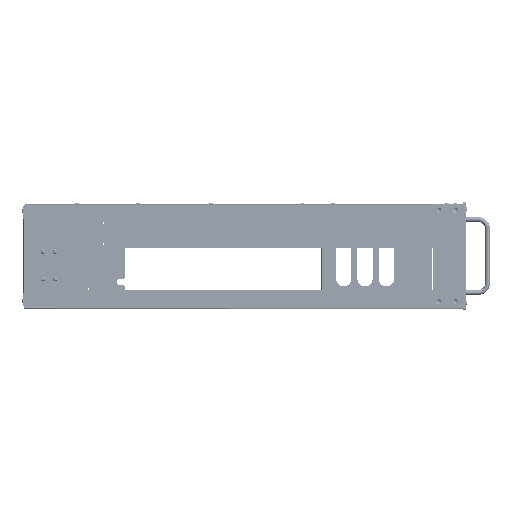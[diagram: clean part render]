
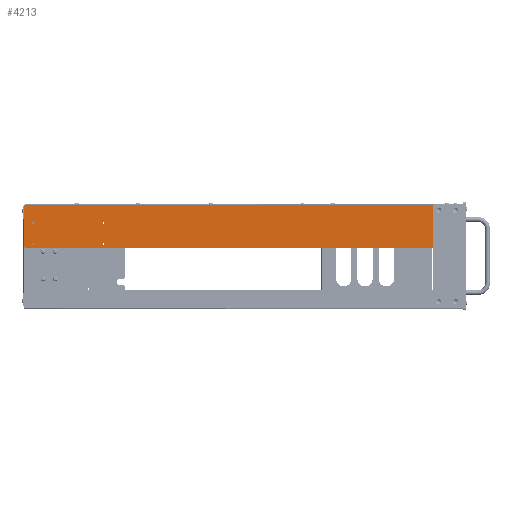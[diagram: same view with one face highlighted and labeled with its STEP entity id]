
A CAD part, left-side view. The second image highlights one B-rep face of the part: STEP entity #4213.
In plain terms, the highlighted planar face has unit normal (-1, 0, 0).
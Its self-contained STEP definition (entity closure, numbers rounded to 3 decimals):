
#3984=CARTESIAN_POINT('Vertex',(-220.5,360.,-67.)) ;
#3987=CARTESIAN_POINT('Line Origine',(-220.5,360.,-33.75)) ;
#3991=CARTESIAN_POINT('Vertex',(-220.5,360.,-0.5)) ;
#4037=CARTESIAN_POINT('Line Origine',(-220.5,360.,-0.5)) ;
#4041=CARTESIAN_POINT('Vertex',(-220.5,-360.,-0.5)) ;
#4066=CARTESIAN_POINT('Axis2P3D Location',(-220.5,-360.,0.077)) ;
#4071=CARTESIAN_POINT('Axis2P3D Location',(-220.5,357.,-67.)) ;
#4075=CARTESIAN_POINT('Vertex',(-220.5,357.,-70.)) ;
#4078=CARTESIAN_POINT('Line Origine',(-220.5,0.,-70.)) ;
#4082=CARTESIAN_POINT('Vertex',(-220.5,-357.,-70.)) ;
#4085=CARTESIAN_POINT('Axis2P3D Location',(-220.5,-357.,-67.)) ;
#4089=CARTESIAN_POINT('Vertex',(-220.5,-360.,-67.)) ;
#4092=CARTESIAN_POINT('Line Origine',(-220.5,-360.,-33.75)) ;
#4105=CARTESIAN_POINT('Axis2P3D Location',(-220.5,230.,-29.)) ;
#4109=CARTESIAN_POINT('Vertex',(-220.5,230.,-30.6)) ;
#4111=CARTESIAN_POINT('Vertex',(-220.5,230.,-27.4)) ;
#4114=CARTESIAN_POINT('Axis2P3D Location',(-220.5,230.,-29.)) ;
#4123=CARTESIAN_POINT('Axis2P3D Location',(-220.5,345.,-64.)) ;
#4127=CARTESIAN_POINT('Vertex',(-220.5,345.,-65.6)) ;
#4129=CARTESIAN_POINT('Vertex',(-220.5,345.,-62.4)) ;
#4132=CARTESIAN_POINT('Axis2P3D Location',(-220.5,345.,-64.)) ;
#4141=CARTESIAN_POINT('Axis2P3D Location',(-220.5,345.,-29.)) ;
#4145=CARTESIAN_POINT('Vertex',(-220.5,345.,-30.6)) ;
#4147=CARTESIAN_POINT('Vertex',(-220.5,345.,-27.4)) ;
#4150=CARTESIAN_POINT('Axis2P3D Location',(-220.5,345.,-29.)) ;
#4159=CARTESIAN_POINT('Axis2P3D Location',(-220.5,230.,-64.)) ;
#4163=CARTESIAN_POINT('Vertex',(-220.5,230.,-65.6)) ;
#4165=CARTESIAN_POINT('Vertex',(-220.5,230.,-62.4)) ;
#4168=CARTESIAN_POINT('Axis2P3D Location',(-220.5,230.,-64.)) ;
#4177=CARTESIAN_POINT('Axis2P3D Location',(-220.5,-347.5,-8.5)) ;
#4181=CARTESIAN_POINT('Vertex',(-220.5,-347.5,-10.1)) ;
#4183=CARTESIAN_POINT('Vertex',(-220.5,-347.5,-6.9)) ;
#4186=CARTESIAN_POINT('Axis2P3D Location',(-220.5,-347.5,-8.5)) ;
#4195=CARTESIAN_POINT('Axis2P3D Location',(-220.5,-320.,-8.5)) ;
#4199=CARTESIAN_POINT('Vertex',(-220.5,-320.,-10.1)) ;
#4201=CARTESIAN_POINT('Vertex',(-220.5,-320.,-6.9)) ;
#4204=CARTESIAN_POINT('Axis2P3D Location',(-220.5,-320.,-8.5)) ;
#3988=DIRECTION('Vector Direction',(0.,0.,-1.)) ;
#4038=DIRECTION('Vector Direction',(0.,1.,0.)) ;
#4067=DIRECTION('Axis2P3D Direction',(-1.,0.,0.)) ;
#4068=DIRECTION('Axis2P3D XDirection',(0.,0.,1.)) ;
#4072=DIRECTION('Axis2P3D Direction',(-1.,0.,0.)) ;
#4079=DIRECTION('Vector Direction',(0.,-1.,0.)) ;
#4086=DIRECTION('Axis2P3D Direction',(-1.,0.,0.)) ;
#4093=DIRECTION('Vector Direction',(0.,0.,1.)) ;
#4106=DIRECTION('Axis2P3D Direction',(-1.,0.,0.)) ;
#4115=DIRECTION('Axis2P3D Direction',(-1.,0.,0.)) ;
#4124=DIRECTION('Axis2P3D Direction',(-1.,0.,0.)) ;
#4133=DIRECTION('Axis2P3D Direction',(-1.,0.,0.)) ;
#4142=DIRECTION('Axis2P3D Direction',(-1.,0.,0.)) ;
#4151=DIRECTION('Axis2P3D Direction',(-1.,0.,0.)) ;
#4160=DIRECTION('Axis2P3D Direction',(-1.,0.,0.)) ;
#4169=DIRECTION('Axis2P3D Direction',(-1.,0.,0.)) ;
#4178=DIRECTION('Axis2P3D Direction',(-1.,0.,0.)) ;
#4187=DIRECTION('Axis2P3D Direction',(-1.,0.,0.)) ;
#4196=DIRECTION('Axis2P3D Direction',(-1.,0.,0.)) ;
#4205=DIRECTION('Axis2P3D Direction',(-1.,0.,0.)) ;
#4069=AXIS2_PLACEMENT_3D('Plane Axis2P3D',#4066,#4067,#4068) ;
#4073=AXIS2_PLACEMENT_3D('Circle Axis2P3D',#4071,#4072,$) ;
#4087=AXIS2_PLACEMENT_3D('Circle Axis2P3D',#4085,#4086,$) ;
#4107=AXIS2_PLACEMENT_3D('Circle Axis2P3D',#4105,#4106,$) ;
#4116=AXIS2_PLACEMENT_3D('Circle Axis2P3D',#4114,#4115,$) ;
#4125=AXIS2_PLACEMENT_3D('Circle Axis2P3D',#4123,#4124,$) ;
#4134=AXIS2_PLACEMENT_3D('Circle Axis2P3D',#4132,#4133,$) ;
#4143=AXIS2_PLACEMENT_3D('Circle Axis2P3D',#4141,#4142,$) ;
#4152=AXIS2_PLACEMENT_3D('Circle Axis2P3D',#4150,#4151,$) ;
#4161=AXIS2_PLACEMENT_3D('Circle Axis2P3D',#4159,#4160,$) ;
#4170=AXIS2_PLACEMENT_3D('Circle Axis2P3D',#4168,#4169,$) ;
#4179=AXIS2_PLACEMENT_3D('Circle Axis2P3D',#4177,#4178,$) ;
#4188=AXIS2_PLACEMENT_3D('Circle Axis2P3D',#4186,#4187,$) ;
#4197=AXIS2_PLACEMENT_3D('Circle Axis2P3D',#4195,#4196,$) ;
#4206=AXIS2_PLACEMENT_3D('Circle Axis2P3D',#4204,#4205,$) ;
#4098=ORIENTED_EDGE('',*,*,#3993,.T.) ;
#4099=ORIENTED_EDGE('',*,*,#4077,.T.) ;
#4100=ORIENTED_EDGE('',*,*,#4084,.T.) ;
#4101=ORIENTED_EDGE('',*,*,#4091,.T.) ;
#4102=ORIENTED_EDGE('',*,*,#4096,.T.) ;
#4103=ORIENTED_EDGE('',*,*,#4043,.T.) ;
#4120=ORIENTED_EDGE('',*,*,#4113,.F.) ;
#4121=ORIENTED_EDGE('',*,*,#4118,.F.) ;
#4138=ORIENTED_EDGE('',*,*,#4131,.F.) ;
#4139=ORIENTED_EDGE('',*,*,#4136,.F.) ;
#4156=ORIENTED_EDGE('',*,*,#4149,.F.) ;
#4157=ORIENTED_EDGE('',*,*,#4154,.F.) ;
#4174=ORIENTED_EDGE('',*,*,#4167,.F.) ;
#4175=ORIENTED_EDGE('',*,*,#4172,.F.) ;
#4192=ORIENTED_EDGE('',*,*,#4185,.F.) ;
#4193=ORIENTED_EDGE('',*,*,#4190,.F.) ;
#4210=ORIENTED_EDGE('',*,*,#4203,.F.) ;
#4211=ORIENTED_EDGE('',*,*,#4208,.F.) ;
#4122=FACE_BOUND('',#4119,.T.) ;
#4140=FACE_BOUND('',#4137,.T.) ;
#4158=FACE_BOUND('',#4155,.T.) ;
#4176=FACE_BOUND('',#4173,.T.) ;
#4194=FACE_BOUND('',#4191,.T.) ;
#4212=FACE_BOUND('',#4209,.T.) ;
#3989=VECTOR('Line Direction',#3988,1.) ;
#4039=VECTOR('Line Direction',#4038,1.) ;
#4080=VECTOR('Line Direction',#4079,1.) ;
#4094=VECTOR('Line Direction',#4093,1.) ;
#4213=ADVANCED_FACE('28',(#4104,#4122,#4140,#4158,#4176,#4194,#4212),#4070,.T.) ;
#4074=CIRCLE('generated circle',#4073,3.) ;
#4088=CIRCLE('generated circle',#4087,3.) ;
#4108=CIRCLE('generated circle',#4107,1.6) ;
#4117=CIRCLE('generated circle',#4116,1.6) ;
#4126=CIRCLE('generated circle',#4125,1.6) ;
#4135=CIRCLE('generated circle',#4134,1.6) ;
#4144=CIRCLE('generated circle',#4143,1.6) ;
#4153=CIRCLE('generated circle',#4152,1.6) ;
#4162=CIRCLE('generated circle',#4161,1.6) ;
#4171=CIRCLE('generated circle',#4170,1.6) ;
#4180=CIRCLE('generated circle',#4179,1.6) ;
#4189=CIRCLE('generated circle',#4188,1.6) ;
#4198=CIRCLE('generated circle',#4197,1.6) ;
#4207=CIRCLE('generated circle',#4206,1.6) ;
#3993=EDGE_CURVE('',#3992,#3985,#3990,.T.) ;
#4043=EDGE_CURVE('',#4042,#3992,#4040,.T.) ;
#4077=EDGE_CURVE('',#3985,#4076,#4074,.T.) ;
#4084=EDGE_CURVE('',#4076,#4083,#4081,.T.) ;
#4091=EDGE_CURVE('',#4083,#4090,#4088,.T.) ;
#4096=EDGE_CURVE('',#4090,#4042,#4095,.T.) ;
#4113=EDGE_CURVE('',#4110,#4112,#4108,.T.) ;
#4118=EDGE_CURVE('',#4112,#4110,#4117,.T.) ;
#4131=EDGE_CURVE('',#4128,#4130,#4126,.T.) ;
#4136=EDGE_CURVE('',#4130,#4128,#4135,.T.) ;
#4149=EDGE_CURVE('',#4146,#4148,#4144,.T.) ;
#4154=EDGE_CURVE('',#4148,#4146,#4153,.T.) ;
#4167=EDGE_CURVE('',#4164,#4166,#4162,.T.) ;
#4172=EDGE_CURVE('',#4166,#4164,#4171,.T.) ;
#4185=EDGE_CURVE('',#4182,#4184,#4180,.T.) ;
#4190=EDGE_CURVE('',#4184,#4182,#4189,.T.) ;
#4203=EDGE_CURVE('',#4200,#4202,#4198,.T.) ;
#4208=EDGE_CURVE('',#4202,#4200,#4207,.T.) ;
#4097=EDGE_LOOP('',(#4098,#4099,#4100,#4101,#4102,#4103)) ;
#4119=EDGE_LOOP('',(#4120,#4121)) ;
#4137=EDGE_LOOP('',(#4138,#4139)) ;
#4155=EDGE_LOOP('',(#4156,#4157)) ;
#4173=EDGE_LOOP('',(#4174,#4175)) ;
#4191=EDGE_LOOP('',(#4192,#4193)) ;
#4209=EDGE_LOOP('',(#4210,#4211)) ;
#4104=FACE_OUTER_BOUND('',#4097,.T.) ;
#3990=LINE('Line',#3987,#3989) ;
#4040=LINE('Line',#4037,#4039) ;
#4081=LINE('Line',#4078,#4080) ;
#4095=LINE('Line',#4092,#4094) ;
#4070=PLANE('',#4069) ;
#3985=VERTEX_POINT('',#3984) ;
#3992=VERTEX_POINT('',#3991) ;
#4042=VERTEX_POINT('',#4041) ;
#4076=VERTEX_POINT('',#4075) ;
#4083=VERTEX_POINT('',#4082) ;
#4090=VERTEX_POINT('',#4089) ;
#4110=VERTEX_POINT('',#4109) ;
#4112=VERTEX_POINT('',#4111) ;
#4128=VERTEX_POINT('',#4127) ;
#4130=VERTEX_POINT('',#4129) ;
#4146=VERTEX_POINT('',#4145) ;
#4148=VERTEX_POINT('',#4147) ;
#4164=VERTEX_POINT('',#4163) ;
#4166=VERTEX_POINT('',#4165) ;
#4182=VERTEX_POINT('',#4181) ;
#4184=VERTEX_POINT('',#4183) ;
#4200=VERTEX_POINT('',#4199) ;
#4202=VERTEX_POINT('',#4201) ;
